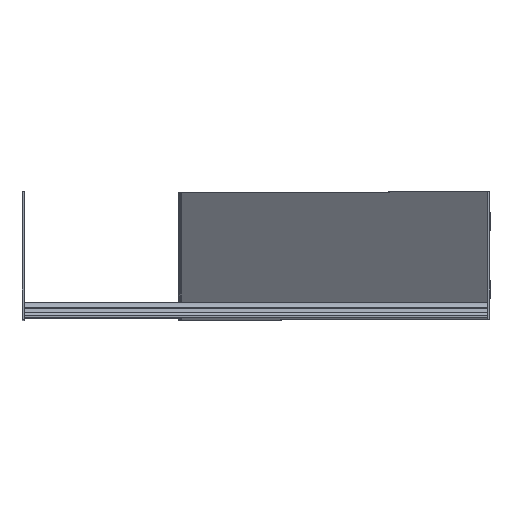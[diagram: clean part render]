
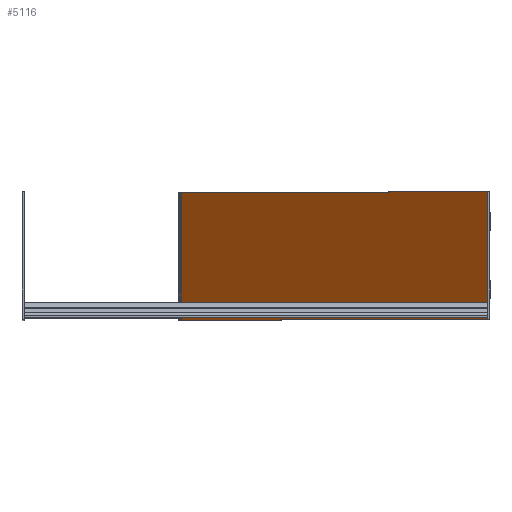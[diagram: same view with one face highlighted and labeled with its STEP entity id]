
A CAD part, top view. The second image highlights one B-rep face of the part: STEP entity #5116.
In plain terms, the highlighted planar face has unit normal (-0.682, 0, 0.731).
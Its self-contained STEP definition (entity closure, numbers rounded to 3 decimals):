
#98 = VECTOR ( 'NONE', #4370, 1000. ) ;
#271 = CARTESIAN_POINT ( 'NONE',  ( 375., 0., 0. ) ) ;
#283 = LINE ( 'NONE', #2948, #4545 ) ;
#461 = EDGE_CURVE ( 'NONE', #4648, #8731, #4465, .T. ) ;
#713 = VECTOR ( 'NONE', #3201, 1000. ) ;
#959 = EDGE_LOOP ( 'NONE', ( #4373, #8940, #5820, #1565 ) ) ;
#989 = VERTEX_POINT ( 'NONE', #8767 ) ;
#1565 = ORIENTED_EDGE ( 'NONE', *, *, #8176, .T. ) ;
#2375 = DIRECTION ( 'NONE',  ( -0.731, 0., -0.682 ) ) ;
#2445 = CARTESIAN_POINT ( 'NONE',  ( 375., 124., 0. ) ) ;
#2509 = CARTESIAN_POINT ( 'NONE',  ( 374.523, 0., -0.445 ) ) ;
#2948 = CARTESIAN_POINT ( 'NONE',  ( 76.112, 0., -278.962 ) ) ;
#3094 = PLANE ( 'NONE',  #4253 ) ;
#3138 = VECTOR ( 'NONE', #2375, 1000. ) ;
#3201 = DIRECTION ( 'NONE',  ( -0.731, 0., -0.682 ) ) ;
#3324 = EDGE_CURVE ( 'NONE', #4648, #5877, #6569, .T. ) ;
#3727 = DIRECTION ( 'NONE',  ( 0., 1., 0. ) ) ;
#3874 = DIRECTION ( 'NONE',  ( -0.682, 0., 0.731 ) ) ;
#4253 = AXIS2_PLACEMENT_3D ( 'NONE', #2445, #3874, #8755 ) ;
#4298 = EDGE_CURVE ( 'NONE', #5877, #989, #283, .T. ) ;
#4370 = DIRECTION ( 'NONE',  ( 0., 1., 0. ) ) ;
#4373 = ORIENTED_EDGE ( 'NONE', *, *, #4298, .F. ) ;
#4457 = LINE ( 'NONE', #5145, #3138 ) ;
#4465 = LINE ( 'NONE', #7823, #98 ) ;
#4524 = FACE_OUTER_BOUND ( 'NONE', #959, .T. ) ;
#4545 = VECTOR ( 'NONE', #3727, 1000. ) ;
#4648 = VERTEX_POINT ( 'NONE', #2509 ) ;
#5116 = ADVANCED_FACE ( 'NONE', ( #4524 ), #3094, .T. ) ;
#5145 = CARTESIAN_POINT ( 'NONE',  ( 375., 124., 0. ) ) ;
#5751 = CARTESIAN_POINT ( 'NONE',  ( 374.523, 124., -0.445 ) ) ;
#5820 = ORIENTED_EDGE ( 'NONE', *, *, #461, .T. ) ;
#5877 = VERTEX_POINT ( 'NONE', #6909 ) ;
#6569 = LINE ( 'NONE', #271, #713 ) ;
#6909 = CARTESIAN_POINT ( 'NONE',  ( 76.112, 0., -278.962 ) ) ;
#7823 = CARTESIAN_POINT ( 'NONE',  ( 374.523, 0., -0.445 ) ) ;
#8176 = EDGE_CURVE ( 'NONE', #8731, #989, #4457, .T. ) ;
#8731 = VERTEX_POINT ( 'NONE', #5751 ) ;
#8755 = DIRECTION ( 'NONE',  ( 0.731, 0., 0.682 ) ) ;
#8767 = CARTESIAN_POINT ( 'NONE',  ( 76.112, 124., -278.962 ) ) ;
#8940 = ORIENTED_EDGE ( 'NONE', *, *, #3324, .F. ) ;
